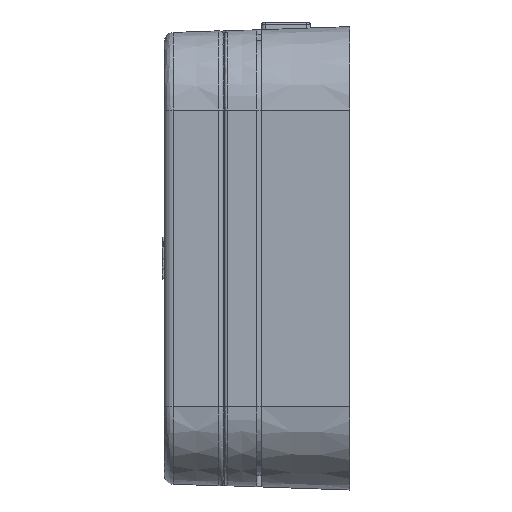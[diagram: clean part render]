
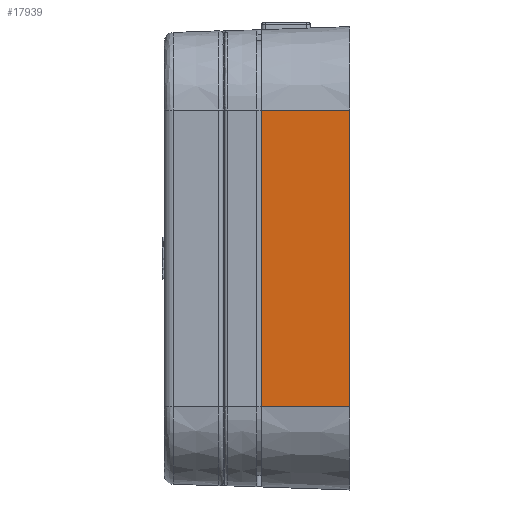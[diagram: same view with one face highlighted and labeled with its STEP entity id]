
A CAD part, left-side view. The second image highlights one B-rep face of the part: STEP entity #17939.
In plain terms, the highlighted planar face has unit normal (-0.999, 0.035, 0).
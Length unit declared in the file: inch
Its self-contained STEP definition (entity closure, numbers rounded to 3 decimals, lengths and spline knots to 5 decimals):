
#2033 = CARTESIAN_POINT ( 'NONE',  ( -2.13261, 0.37402, -0.62992 ) ) ;
#2127 = CARTESIAN_POINT ( 'NONE',  ( -2.13261, 0.37402, 0.62992 ) ) ;
#2128 = DIRECTION ( 'NONE',  ( 0., 0., -1. ) ) ;
#2129 = VECTOR ( 'NONE', #2128, 39.37008 ) ;
#2130 = CARTESIAN_POINT ( 'NONE',  ( -2.13261, 0.37402, -1.06356 ) ) ;
#2131 = LINE ( 'NONE', #2130, #2129 ) ;
#17922 = EDGE_CURVE ( 'NONE', #17926, #30684, #26160, .T. ) ;
#17926 = VERTEX_POINT ( 'NONE', #26144 ) ;
#17939 = ADVANCED_FACE ( 'NONE', ( #26248 ), #26246, .T. ) ;
#17941 = EDGE_LOOP ( 'NONE', ( #17943, #17983, #17990, #17998 ) ) ;
#17943 = ORIENTED_EDGE ( 'NONE', *, *, #30683, .T. ) ;
#17983 = ORIENTED_EDGE ( 'NONE', *, *, #17985, .F. ) ;
#17985 = EDGE_CURVE ( 'NONE', #17987, #30584, #26412, .T. ) ;
#17987 = VERTEX_POINT ( 'NONE', #26397 ) ;
#17990 = ORIENTED_EDGE ( 'NONE', *, *, #17992, .F. ) ;
#17992 = EDGE_CURVE ( 'NONE', #17926, #17987, #26380, .T. ) ;
#17998 = ORIENTED_EDGE ( 'NONE', *, *, #17922, .T. ) ;
#26144 = CARTESIAN_POINT ( 'NONE',  ( -2.14567, 0., 0.62992 ) ) ;
#26156 = DIRECTION ( 'NONE',  ( 0.035, 0.999, 0. ) ) ;
#26157 = VECTOR ( 'NONE', #26156, 39.37008 ) ;
#26159 = CARTESIAN_POINT ( 'NONE',  ( -2.14567, 0., 0.62992 ) ) ;
#26160 = LINE ( 'NONE', #26159, #26157 ) ;
#26237 = DIRECTION ( 'NONE',  ( -0.035, -0.999, 0. ) ) ;
#26238 = DIRECTION ( 'NONE',  ( -0.999, 0.035, 0. ) ) ;
#26239 = CARTESIAN_POINT ( 'NONE',  ( -2.14567, 0., -1.06356 ) ) ;
#26241 = AXIS2_PLACEMENT_3D ( 'NONE', #26239, #26238, #26237 ) ;
#26246 = PLANE ( 'NONE',  #26241 ) ;
#26248 = FACE_OUTER_BOUND ( 'NONE', #17941, .T. ) ;
#26375 = DIRECTION ( 'NONE',  ( 0., 0., -1. ) ) ;
#26376 = VECTOR ( 'NONE', #26375, 39.37008 ) ;
#26378 = CARTESIAN_POINT ( 'NONE',  ( -2.14567, 0., -0.98425 ) ) ;
#26380 = LINE ( 'NONE', #26378, #26376 ) ;
#26397 = CARTESIAN_POINT ( 'NONE',  ( -2.14567, 0., -0.62992 ) ) ;
#26408 = DIRECTION ( 'NONE',  ( 0.035, 0.999, 0. ) ) ;
#26409 = VECTOR ( 'NONE', #26408, 39.37008 ) ;
#26410 = CARTESIAN_POINT ( 'NONE',  ( -2.13914, 0.18701, -0.62992 ) ) ;
#26412 = LINE ( 'NONE', #26410, #26409 ) ;
#30584 = VERTEX_POINT ( 'NONE', #2033 ) ;
#30683 = EDGE_CURVE ( 'NONE', #30684, #30584, #2131, .T. ) ;
#30684 = VERTEX_POINT ( 'NONE', #2127 ) ;
